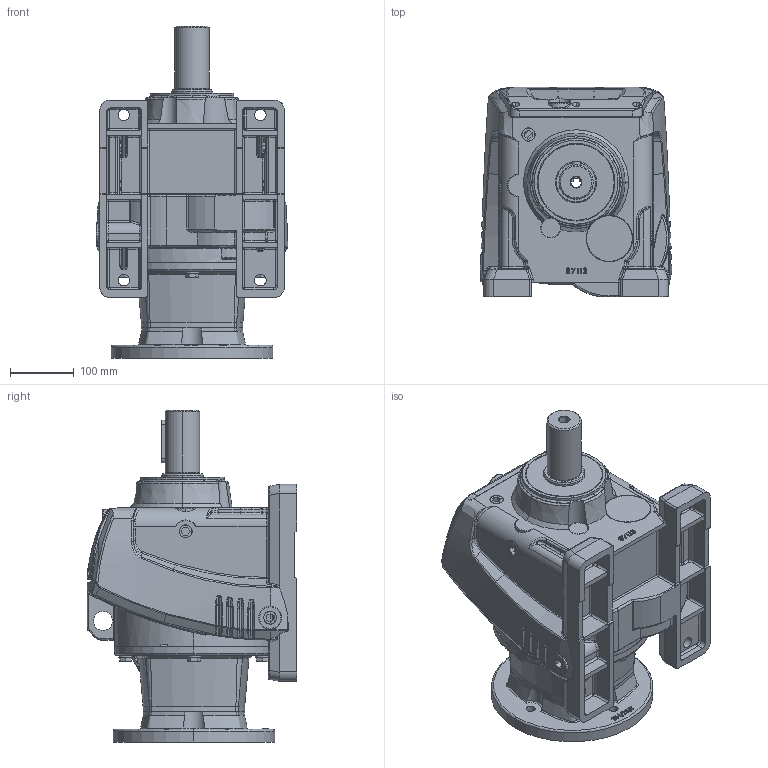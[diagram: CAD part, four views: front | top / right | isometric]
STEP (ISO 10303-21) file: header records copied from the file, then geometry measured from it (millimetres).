
FILE_DESCRIPTION (( 'STEP AP203' ), '1' );
FILE_NAME ('087HN-254TC.STEP', '2014-02-20T03:40:38', ( 'user' ), ( '' ), 'SwSTEP 2.0', 'SolidWorks 2011', '' );
FILE_SCHEMA (( 'CONFIG_CONTROL_DESIGN' ));
Products named in the file (1): 087HN-254TC
Bounding box: 301.8 x 330 x 522.5 mm (x, y, z)
Surface area: 891552.7 mm2 (no closed solid volume)
Topology: 0 solids, 35 shells, 1596 faces, 4544 edges, 2850 vertices
Faces by surface type: bspline 568, cylinder 403, plane 366, cone 96, torus 89, sphere 74
Entity records: 77537 total; most frequent: CARTESIAN_POINT 41029, ORIENTED_EDGE 8060, DIRECTION 6466, EDGE_CURVE 4487, VERTEX_POINT 2849, AXIS2_PLACEMENT_3D 2500, EDGE_LOOP 1712, FACE_OUTER_BOUND 1596
